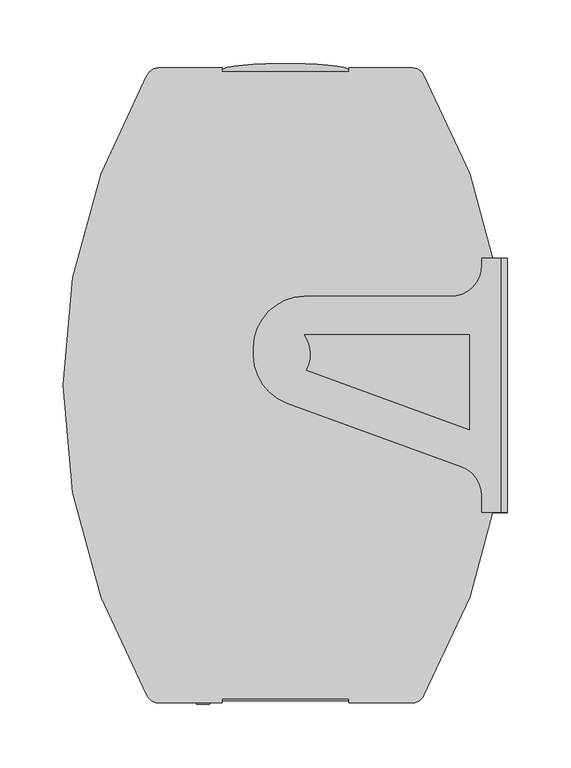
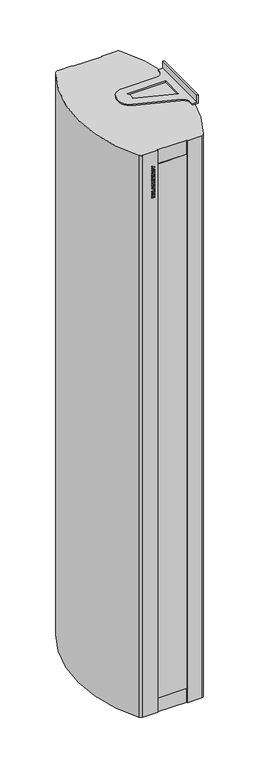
"""IFC4 building model written with IfcOpenShell, lengths in millimetres: proxy geometry, ADSK_Завеса дизайнерская_Электрическая : KVC-S20E18-31."""

import ifcopenshell
import ifcopenshell.guid

model = None  # the IFC model being written
_history = None  # IfcOwnerHistory: only IFC2X3 demands one
_inside = {}  # id of a spatial element -> (the spatial element, [elements in it])
_under = {}  # id of a project, library or spatial element -> (it, [spatial elements below it])
_declared = {}  # id of a project -> (the project, [libraries it declares])
_typed = {}  # id of a type object -> (the type object, [elements of that type])
_made_of = {}  # id of a material, layer set ... -> (it, [elements and type objects made of it])


def new_model(schema):
    """Start an empty IFC model of exactly this schema.

    Asked for "IFC4X3", IfcOpenShell would pick the latest addendum, in which some entities
    have other attributes; the version numbers below select the first issue.
    IFC2X3 requires an IfcOwnerHistory on every rooted entity: one is made here for all.
    """
    global model, _history
    if schema == "IFC4X3":
        model = ifcopenshell.file(schema_version=(4, 3, 0, 0))
    else:
        model = ifcopenshell.file(schema=schema)
    _inside.clear()
    _under.clear()
    _declared.clear()
    _typed.clear()
    _made_of.clear()
    _history = None
    if model.schema == "IFC2X3":
        org = make("IfcOrganization", Name="unknown")
        user = make(
            "IfcPersonAndOrganization",
            ThePerson=make("IfcPerson", FamilyName="unknown"),
            TheOrganization=org,
        )
        app = make(
            "IfcApplication",
            ApplicationDeveloper=org,
            Version="unknown",
            ApplicationFullName="unknown",
            ApplicationIdentifier="unknown",
        )
        _history = make(
            "IfcOwnerHistory",
            OwningUser=user,
            OwningApplication=app,
            ChangeAction="ADDED",
            CreationDate=0,
        )
    return model


def make(cls, **values):
    """One entity of the class cls with the attributes given. An attribute that is None is left unset."""
    return model.create_entity(
        cls, **{name: value for name, value in values.items() if value is not None}
    )


def rooted(cls, **values):
    """An entity with a GlobalId (a new one), such as an element, a storey or a relation."""
    return make(cls, GlobalId=ifcopenshell.guid.new(), OwnerHistory=_history, **values)


def si_unit(unit_type, name, prefix=None):
    """IfcSIUnit, for example si_unit("LENGTHUNIT", "METRE", prefix="MILLI")."""
    return make("IfcSIUnit", UnitType=unit_type, Prefix=prefix, Name=name)


def assignment(units):
    """IfcUnitAssignment: the units of a project."""
    return None if units is None else make("IfcUnitAssignment", Units=units)


def point(xyz):
    """IfcCartesianPoint."""
    return None if xyz is None else make("IfcCartesianPoint", Coordinates=xyz)


def direction(xyz):
    """IfcDirection."""
    return None if xyz is None else make("IfcDirection", DirectionRatios=xyz)


def frame(location, z_axis=None, x_axis=None):
    """IfcAxis2Placement3D, a coordinate frame: its origin and axes. An axis left out is left unset."""
    return make(
        "IfcAxis2Placement3D",
        Location=point(location),
        Axis=direction(z_axis),
        RefDirection=direction(x_axis),
    )


def frame_2d(location, x_axis=None):
    """IfcAxis2Placement2D, a coordinate frame in the plane: its origin and x axis."""
    return make(
        "IfcAxis2Placement2D", Location=point(location), RefDirection=direction(x_axis)
    )


def origin():
    """The frame at (0, 0, 0) with its axes left unset."""
    return frame((0.0, 0.0, 0.0))


def origin_with_axes():
    """The frame at (0, 0, 0) with the z axis (0, 0, 1) and the x axis (1, 0, 0) written out."""
    return frame((0.0, 0.0, 0.0), z_axis=(0.0, 0.0, 1.0), x_axis=(1.0, 0.0, 0.0))


def place(relative_to, where):
    """IfcLocalPlacement: puts the frame where relative to a parent placement (None: the world)."""
    return make(
        "IfcLocalPlacement", PlacementRelTo=relative_to, RelativePlacement=where
    )


def context(
    kind, dimensions, precision=None, world=None, true_north=None, identifier=None
):
    """IfcGeometricRepresentationContext, for example the 3D "Model" context."""
    return make(
        "IfcGeometricRepresentationContext",
        ContextIdentifier=identifier,
        ContextType=kind,
        CoordinateSpaceDimension=dimensions,
        Precision=precision,
        WorldCoordinateSystem=world,
        TrueNorth=true_north,
    )


def project(units=None, contexts=None):
    """IfcProject with its units and contexts."""
    return rooted(
        "IfcProject",
        Name="project",
        RepresentationContexts=contexts,
        UnitsInContext=assignment(units),
    )


def spatial(cls, under=None, at=None, **own):
    """A site, building, storey or space (cls), placed at a placement, below another one or the project."""
    s = rooted(cls, ObjectPlacement=at, **own)
    if under is not None:
        _under.setdefault(under.id(), (under, []))[1].append(s)
    return s


def polyline(points):
    """IfcPolyline through the points."""
    return make("IfcPolyline", Points=[point(p) for p in points])


def circle_curve(where, radius):
    """IfcCircle in the frame where."""
    return make("IfcCircle", Position=where, Radius=radius)


def ellipse_curve(where, semi_axis1, semi_axis2):
    """IfcEllipse in the frame where."""
    return make(
        "IfcEllipse", Position=where, SemiAxis1=semi_axis1, SemiAxis2=semi_axis2
    )


def trimmed(basis, trim1, trim2, sense, master):
    """IfcTrimmedCurve: the piece of a basis curve between two trims."""
    return make(
        "IfcTrimmedCurve",
        BasisCurve=basis,
        Trim1=trim1,
        Trim2=trim2,
        SenseAgreement=sense,
        MasterRepresentation=master,
    )


def segment(curve, same_sense, transition):
    """IfcCompositeCurveSegment."""
    return make(
        "IfcCompositeCurveSegment",
        Transition=transition,
        SameSense=same_sense,
        ParentCurve=curve,
    )


def composite_curve(segments, self_intersect=None):
    """IfcCompositeCurve: segments joined end to end."""
    return make("IfcCompositeCurve", Segments=segments, SelfIntersect=self_intersect)


def outline(outer, holes=None, kind="AREA"):
    """IfcArbitraryClosedProfileDef: a profile drawn as a closed curve; with holes, ...WithVoids."""
    if holes is None:
        return make("IfcArbitraryClosedProfileDef", ProfileType=kind, OuterCurve=outer)
    return make(
        "IfcArbitraryProfileDefWithVoids",
        ProfileType=kind,
        OuterCurve=outer,
        InnerCurves=holes,
    )


def extrude(swept, where, along, depth):
    """IfcExtrudedAreaSolid: the profile swept, set in the frame where, extruded along a direction by depth."""
    return make(
        "IfcExtrudedAreaSolid",
        SweptArea=swept,
        Position=where,
        ExtrudedDirection=direction(along),
        Depth=depth,
    )


def faces_of(points, faces, orient=None, outer=None):
    """IfcFace entities. A face is a list of loops; a loop is a list of indices into points, from 0.

    orient and outer hold one flag for each loop. By default every Orientation is true, the
    first loop of a face is its IfcFaceOuterBound and the others are IfcFaceBound.
    """
    made = []
    for i, loops in enumerate(faces):
        bounds = []
        for j, loop in enumerate(loops):
            is_outer = j == 0 if outer is None else outer[i][j]
            bounds.append(
                make(
                    "IfcFaceOuterBound" if is_outer else "IfcFaceBound",
                    Bound=make("IfcPolyLoop", Polygon=[points[k] for k in loop]),
                    Orientation=True if orient is None else orient[i][j],
                )
            )
        made.append(make("IfcFace", Bounds=bounds))
    return made


def faceted_brep(points, faces, orient=None, outer=None, voids=None):
    """IfcFacetedBrep: a solid bounded by flat faces; with voids (closed shells), ...WithVoids."""
    shared = [point(p) for p in points]
    hull = make("IfcClosedShell", CfsFaces=faces_of(shared, faces, orient, outer))
    if voids is None:
        return make("IfcFacetedBrep", Outer=hull)
    return make(
        "IfcFacetedBrepWithVoids",
        Outer=hull,
        Voids=[
            make(cls, CfsFaces=faces_of(shared, fs, o, b)) for cls, fs, o, b in voids
        ],
    )


def shape(context_of_items, identifier, shape_type, items):
    """IfcShapeRepresentation: the items that make up one representation, for example the "Body"."""
    return make(
        "IfcShapeRepresentation",
        ContextOfItems=context_of_items,
        RepresentationIdentifier=identifier,
        RepresentationType=shape_type,
        Items=items,
    )


def source(mapping_origin, context_of_items, identifier, shape_type, items):
    """IfcRepresentationMap: a shape defined once, which mapped items show again and again."""
    return make(
        "IfcRepresentationMap",
        MappingOrigin=mapping_origin,
        MappedRepresentation=shape(context_of_items, identifier, shape_type, items),
    )


def transform(
    local_origin,
    x_axis=None,
    y_axis=None,
    z_axis=None,
    scale=None,
    scale2=None,
    scale3=None,
    uniform=True,
):
    """IfcCartesianTransformationOperator3D, or its non-uniform kind. x_axis, y_axis, z_axis: its Axis1, 2, 3."""
    if uniform:
        return make(
            "IfcCartesianTransformationOperator3D",
            Axis1=direction(x_axis),
            Axis2=direction(y_axis),
            LocalOrigin=point(local_origin),
            Scale=scale,
            Axis3=direction(z_axis),
        )
    return make(
        "IfcCartesianTransformationOperator3DnonUniform",
        Axis1=direction(x_axis),
        Axis2=direction(y_axis),
        LocalOrigin=point(local_origin),
        Scale=scale,
        Axis3=direction(z_axis),
        Scale2=scale2,
        Scale3=scale3,
    )


def mapped(mapping_source, mapping_target):
    """IfcMappedItem: shows the shape of a source again, moved by a transform."""
    return make(
        "IfcMappedItem", MappingSource=mapping_source, MappingTarget=mapping_target
    )


def made_of(thing, what):
    """Note that an element or type object is made of a material, layer set ...; save() writes the relation."""
    if what is not None:
        _made_of.setdefault(what.id(), (what, []))[1].append(thing)
    return thing


def element(
    cls,
    number,
    at=None,
    inside=None,
    cuts=None,
    type_object=None,
    material=None,
    context=None,
    identifier="Body",
    shape_type=None,
    held_by="IfcProductDefinitionShape",
    body=None,
    shapes=None,
    **own,
):
    """One element of the class cls, such as IfcWall. Its Tag is "e" and its number.

    at: its placement. inside: the storey or other place that contains it. cuts: it is an
    opening in that element (IfcRelVoidsElement). A single representation is given by context,
    identifier, shape_type and body (its items); several are given by shapes. held_by: the class
    of the entity that holds the representations. save() writes the other relations.
    """
    e = rooted(cls, Tag="e%d" % number, ObjectPlacement=at, **own)
    if body is not None:
        shapes = [shape(context, identifier, shape_type, body)]
    if shapes is not None:
        e.Representation = make(held_by, Representations=shapes)
    if inside is not None:
        _inside.setdefault(inside.id(), (inside, []))[1].append(e)
    if cuts is not None:
        rooted(
            "IfcRelVoidsElement", RelatingBuildingElement=cuts, RelatedOpeningElement=e
        )
    if type_object is not None:
        _typed.setdefault(type_object.id(), (type_object, []))[1].append(e)
    return made_of(e, material)


def aggregate(whole, parts):
    """IfcRelAggregates: a whole, such as a stair, and the parts it consists of."""
    return rooted("IfcRelAggregates", RelatingObject=whole, RelatedObjects=parts)


def save(model, path):
    """Write the relations noted so far, then the file.

    IfcRelAggregates (storeys below a building ...), IfcRelContainedInSpatialStructure (elements
    in a storey), IfcRelDefinesByType, IfcRelAssociatesMaterial and IfcRelDeclares: one each for
    every whole, place, type object, material and project.
    """
    for whole, parts in _under.values():
        aggregate(whole, parts)
    for where, things in _inside.values():
        rooted(
            "IfcRelContainedInSpatialStructure",
            RelatedElements=things,
            RelatingStructure=where,
        )
    for kind, things in _typed.values():
        rooted("IfcRelDefinesByType", RelatedObjects=things, RelatingType=kind)
    for what, things in _made_of.values():
        rooted("IfcRelAssociatesMaterial", RelatedObjects=things, RelatingMaterial=what)
    for by, libraries in _declared.values():
        rooted("IfcRelDeclares", RelatingContext=by, RelatedDefinitions=libraries)
    model.write(path)


def plane_surface(at):
    """IfcPlane: the flat surface through the origin of the frame at, square to its z axis."""
    return make("IfcPlane", Position=at)


def cylinder_surface(at, radius):
    """IfcCylindricalSurface: all points at the distance radius from the z axis of the frame at."""
    return make("IfcCylindricalSurface", Position=at, Radius=radius)


def revolved_surface(curve, axis_point, axis_direction):
    """IfcSurfaceOfRevolution: the curve turned about the line through axis_point along axis_direction."""
    return make(
        "IfcSurfaceOfRevolution",
        SweptCurve=make("IfcArbitraryOpenProfileDef", ProfileType="CURVE", Curve=curve),
        AxisPosition=make("IfcAxis1Placement", Location=point(axis_point), Axis=direction(axis_direction)),
    )


def extruded_surface(curve, direction_of_extrusion, depth):
    """IfcSurfaceOfLinearExtrusion: the curve pushed along a direction by depth."""
    return make(
        "IfcSurfaceOfLinearExtrusion",
        SweptCurve=make("IfcArbitraryOpenProfileDef", ProfileType="CURVE", Curve=curve),
        ExtrudedDirection=direction(direction_of_extrusion),
        Depth=depth,
    )


def advanced_brep(points, edges, surfaces, faces):
    """IfcAdvancedBrep: a solid bounded by faces that lie on surfaces and meet in shared edges.

    An edge is (start, end): straight between two places in points (the first is 0);
    or (start, end, curve); or (start, end, curve, False) where it runs against its curve.
    A face is (place in surfaces, loops), or (place, loops, False) where it looks against
    its surface's normal. A loop lists edges by number (the first is 1), with a minus sign
    where the edge is run from its end to its start. The first loop is the outer one.
    """
    corners = [point(p) for p in points]
    vertices = [make("IfcVertexPoint", VertexGeometry=c) for c in corners]
    made = []
    for start, end, *more in edges:
        made.append(
            make(
                "IfcEdgeCurve",
                EdgeStart=vertices[start],
                EdgeEnd=vertices[end],
                EdgeGeometry=more[0] if more else make("IfcPolyline", Points=[corners[start], corners[end]]),
                SameSense=more[1] if len(more) > 1 else True,
            )
        )
    hull = []
    for where, loops, *sense in faces:
        bounds = []
        for j, loop in enumerate(loops):
            ring = [make("IfcOrientedEdge", EdgeElement=made[abs(k) - 1], Orientation=k > 0) for k in loop]
            bounds.append(
                make(
                    "IfcFaceOuterBound" if j == 0 else "IfcFaceBound",
                    Bound=make("IfcEdgeLoop", EdgeList=ring),
                    Orientation=True,
                )
            )
        hull.append(make("IfcAdvancedFace", Bounds=bounds, FaceSurface=surfaces[where], SameSense=sense[0] if sense else True))
    return make("IfcAdvancedBrep", Outer=make("IfcClosedShell", CfsFaces=hull))


def mechanical_equipment_6c2af282(model_context):
    return source(origin(), model_context, "Body", "SolidModel", [
        advanced_brep(
        [(155.0, 100.0, -5.0), (170.0, 100.0, -5.0), (170.0, -100.0, -5.0), (155.0, -100.0, -5.0), (155.0, -87.5051885, -5.0), (138.5505036, -64.0128729, -5.0), (1.3191943, -14.0647611, -5.0), (-25.0, 23.5229437, -5.0), (-25.0, 30.0, -5.0), (15.0, 70.0, -5.0), (130.0, 70.0, -5.0), (155.0, 95.0, -5.0), (145.0, -34.8821335, -5.0), (145.0, 40.0, -5.0), (15.0, 40.0, -5.0), (16.5981063, 11.8523338, -5.0), (155.0, 100.0, 0.0), (155.0, 95.0, 0.0), (130.0, 70.0, 0.0), (15.0, 70.0, 0.0), (-25.0, 30.0, 0.0), (-25.0, 23.5229437, 0.0), (1.3191943, -14.0647611, 0.0), (138.5505036, -64.0128729, 0.0), (155.0, -87.5051885, 0.0), (155.0, -100.0, 0.0), (175.0, -100.0, 0.0), (175.0, 100.0, 0.0), (145.0, -34.8821335, 0.0), (16.5981063, 11.8523338, 0.0), (15.0, 40.0, 0.0), (145.0, 40.0, 0.0), (175.0, 100.0, -30.0), (170.0, 100.0, -30.0), (170.0, -100.0, -30.0), (175.0, -100.0, -30.0)],
        [
            (0, 1),
            (1, 2),
            (2, 3),
            (3, 4),
            (4, 5, circle_curve(frame((130.0, -87.5051885, -5.0), z_axis=(0.0, 0.0, 1.0), x_axis=(1.0, 0.0, 0.0)), 25.0)),
            (5, 6),
            (6, 7, circle_curve(frame((15.0, 23.5229437, -5.0), z_axis=(0.0, 0.0, -1.0), x_axis=(1.0, 0.0, 0.0)), 40.0)),
            (7, 8),
            (8, 9, circle_curve(frame((15.0, 30.0, -5.0), z_axis=(0.0, 0.0, -1.0), x_axis=(1.0, 0.0, 0.0)), 40.0)),
            (9, 10),
            (10, 11, circle_curve(frame((130.0, 95.0, -5.0), z_axis=(0.0, 0.0, 1.0), x_axis=(1.0, 0.0, 0.0)), 25.0)),
            (11, 0),
            (12, 13),
            (13, 14),
            (14, 15, circle_curve(frame((-7.1937545, 24.6207318, -5.0), z_axis=(0.0, 0.0, -1.0), x_axis=(1.0, 0.0, 0.0)), 27.0015672)),
            (15, 12),
            (16, 17),
            (17, 18, circle_curve(frame((130.0, 95.0, 0.0), z_axis=(0.0, 0.0, -1.0), x_axis=(1.0, 0.0, 0.0)), 25.0)),
            (18, 19),
            (19, 20, circle_curve(frame((15.0, 30.0, 0.0), z_axis=(0.0, 0.0, 1.0), x_axis=(1.0, 0.0, 0.0)), 40.0)),
            (20, 21),
            (21, 22, circle_curve(frame((15.0, 23.5229437, 0.0), z_axis=(0.0, 0.0, 1.0), x_axis=(1.0, 0.0, 0.0)), 40.0)),
            (22, 23),
            (23, 24, circle_curve(frame((130.0, -87.5051885, 0.0), z_axis=(0.0, 0.0, -1.0), x_axis=(1.0, 0.0, 0.0)), 25.0)),
            (24, 25),
            (25, 26),
            (26, 27),
            (27, 16),
            (28, 29),
            (29, 30, circle_curve(frame((-7.1937545, 24.6207318, 0.0), z_axis=(0.0, 0.0, 1.0), x_axis=(1.0, 0.0, 0.0)), 27.0015672)),
            (30, 31),
            (31, 28),
            (27, 32),
            (32, 33),
            (33, 1),
            (0, 16),
            (7, 21),
            (20, 8),
            (2, 34),
            (34, 35),
            (35, 26),
            (25, 3),
            (35, 32),
            (11, 17),
            (10, 18),
            (9, 19),
            (6, 22),
            (5, 23),
            (4, 24),
            (15, 29),
            (28, 12),
            (14, 30),
            (13, 31),
            (34, 33),
        ],
        [
            plane_surface(frame((-25.0, 100.0, -5.0), z_axis=(0.0, 0.0, -1.0), x_axis=(-1.0, 0.0, 0.0))),
            plane_surface(frame((-25.0, 100.0, 0.0), z_axis=(0.0, 0.0, 1.0), x_axis=(1.0, 0.0, 0.0))),
            plane_surface(frame((175.0, 100.0, -5.0), z_axis=(0.0, 1.0, 0.0), x_axis=(0.0, 0.0, 1.0))),
            plane_surface(frame((-25.0, 30.0, -5.0), z_axis=(-1.0, 0.0, 0.0), x_axis=(0.0, 0.0, 1.0))),
            plane_surface(frame((155.0, -100.0, -5.0), z_axis=(0.0, -1.0, 0.0), x_axis=(0.0, 0.0, 1.0))),
            plane_surface(frame((175.0, -100.0, -5.0), z_axis=(1.0, 0.0, 0.0), x_axis=(0.0, 0.0, 1.0))),
            plane_surface(frame((155.0, 100.0, -5.0), z_axis=(-1.0, 0.0, 0.0), x_axis=(0.0, 0.0, 1.0))),
            revolved_surface(polyline([(155.0, 95.0, 0.0), (155.0, 95.0, -5.0)]), (130.0, 95.0, 0.0), (0.0, 0.0, 1.0)),
            plane_surface(frame((130.0, 70.0, -5.0), z_axis=(0.0, 1.0, 0.0), x_axis=(0.0, 0.0, 1.0))),
            cylinder_surface(frame((15.0, 30.0, 0.0), z_axis=(0.0, 0.0, -1.0), x_axis=(1.0, 0.0, 0.0)), 40.0),
            cylinder_surface(frame((15.0, 23.5229437, 0.0), z_axis=(0.0, 0.0, -1.0), x_axis=(1.0, 0.0, 0.0)), 40.0),
            plane_surface(frame((1.3191943, -14.0647611, -5.0), z_axis=(-0.34202014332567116, -0.9396926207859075, 0.0), x_axis=(0.0, 0.0, 1.0))),
            revolved_surface(polyline([(155.0, -87.5051885, 0.0), (155.0, -87.5051885, -5.0)]), (130.0, -87.5051885, 0.0), (0.0, 0.0, 1.0)),
            plane_surface(frame((155.0, -87.5051885, -5.0), z_axis=(-1.0, 0.0, 0.0), x_axis=(0.0, 0.0, 1.0))),
            plane_surface(frame((145.0, -34.8821335, -5.0), z_axis=(0.34202014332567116, 0.9396926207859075, 0.0), x_axis=(0.0, 0.0, 1.0))),
            cylinder_surface(frame((-7.1937545, 24.6207318, 0.0), z_axis=(0.0, 0.0, -1.0), x_axis=(1.0, 0.0, 0.0)), 27.0015672),
            plane_surface(frame((15.0, 40.0, -5.0), z_axis=(0.0, -1.0, 0.0), x_axis=(0.0, 0.0, 1.0))),
            plane_surface(frame((145.0, 40.0, -5.0), z_axis=(-1.0, 0.0, 0.0), x_axis=(0.0, 0.0, 1.0))),
            plane_surface(frame((170.0, 126.8049179, -30.0), z_axis=(0.0, 0.0, -1.0), x_axis=(0.0, -1.0, 0.0))),
            plane_surface(frame((170.0, 100.0, -30.0), z_axis=(-1.0, 0.0, 0.0), x_axis=(0.0, 0.0, 1.0))),
        ],
        [
            (0, [[1, 2, 3, 4, 5, 6, 7, 8, 9, 10, 11, 12], [13, 14, 15, 16]]),
            (1, [[17, 18, 19, 20, 21, 22, 23, 24, 25, 26, 27, 28], [29, 30, 31, 32]]),
            (2, [[-28, 33, 34, 35, -1, 36]]),
            (3, [[37, -21, 38, -8]]),
            (4, [[-3, 39, 40, 41, -26, 42]]),
            (5, [[43, -33, -27, -41]]),
            (6, [[44, -17, -36, -12]]),
            (7, [[45, -18, -44, -11]]),
            (8, [[46, -19, -45, -10]]),
            (9, [[-38, -20, -46, -9]]),
            (10, [[47, -22, -37, -7]]),
            (11, [[48, -23, -47, -6]]),
            (12, [[49, -24, -48, -5]]),
            (13, [[-42, -25, -49, -4]]),
            (14, [[50, -29, 51, -16]]),
            (15, [[52, -30, -50, -15]]),
            (16, [[53, -31, -52, -14]]),
            (17, [[-51, -32, -53, -13]]),
            (18, [[-34, -43, -40, 54]]),
            (19, [[-39, -2, -35, -54]]),
        ],
    ),
        advanced_brep(
        [(155.0, 100.0, 2019.0), (155.0, 95.0, 2019.0), (130.0, 70.0, 2019.0), (15.0, 70.0, 2019.0), (-25.0, 30.0, 2019.0), (-25.0, 23.5229437, 2019.0), (1.3191943, -14.0647611, 2019.0), (138.5505036, -64.0128729, 2019.0), (155.0, -87.5051885, 2019.0), (155.0, -100.0, 2019.0), (170.0, -100.0, 2019.0), (170.0, 100.0, 2019.0), (145.0, -34.8821335, 2019.0), (16.5981063, 11.8523338, 2019.0), (15.0, 40.0, 2019.0), (145.0, 40.0, 2019.0), (155.0, 100.0, 2014.0), (175.0, 100.0, 2014.0), (175.0, -100.0, 2014.0), (155.0, -100.0, 2014.0), (155.0, -87.5051885, 2014.0), (138.5505036, -64.0128729, 2014.0), (1.3191943, -14.0647611, 2014.0), (-25.0, 23.5229437, 2014.0), (-25.0, 30.0, 2014.0), (15.0, 70.0, 2014.0), (130.0, 70.0, 2014.0), (155.0, 95.0, 2014.0), (145.0, -34.8821335, 2014.0), (145.0, 40.0, 2014.0), (15.0, 40.0, 2014.0), (16.5981063, 11.8523338, 2014.0), (170.0, 100.0, 2044.0), (175.0, 100.0, 2044.0), (175.0, -100.0, 2044.0), (170.0, -100.0, 2044.0)],
        [
            (0, 1),
            (1, 2, circle_curve(frame((130.0, 95.0, 2019.0), z_axis=(0.0, 0.0, -1.0), x_axis=(1.0, 0.0, 0.0)), 25.0)),
            (2, 3),
            (3, 4, circle_curve(frame((15.0, 30.0, 2019.0), z_axis=(0.0, 0.0, 1.0), x_axis=(1.0, 0.0, 0.0)), 40.0)),
            (4, 5),
            (5, 6, circle_curve(frame((15.0, 23.5229437, 2019.0), z_axis=(0.0, 0.0, 1.0), x_axis=(1.0, 0.0, 0.0)), 40.0)),
            (6, 7),
            (7, 8, circle_curve(frame((130.0, -87.5051885, 2019.0), z_axis=(0.0, 0.0, -1.0), x_axis=(1.0, 0.0, 0.0)), 25.0)),
            (8, 9),
            (9, 10),
            (10, 11),
            (11, 0),
            (12, 13),
            (13, 14, circle_curve(frame((-7.1937545, 24.6207318, 2019.0), z_axis=(0.0, 0.0, 1.0), x_axis=(1.0, 0.0, 0.0)), 27.0015672)),
            (14, 15),
            (15, 12),
            (16, 17),
            (17, 18),
            (18, 19),
            (19, 20),
            (20, 21, circle_curve(frame((130.0, -87.5051885, 2014.0), z_axis=(0.0, 0.0, 1.0), x_axis=(1.0, 0.0, 0.0)), 25.0)),
            (21, 22),
            (22, 23, circle_curve(frame((15.0, 23.5229437, 2014.0), z_axis=(0.0, 0.0, -1.0), x_axis=(1.0, 0.0, 0.0)), 40.0)),
            (23, 24),
            (24, 25, circle_curve(frame((15.0, 30.0, 2014.0), z_axis=(0.0, 0.0, -1.0), x_axis=(1.0, 0.0, 0.0)), 40.0)),
            (25, 26),
            (26, 27, circle_curve(frame((130.0, 95.0, 2014.0), z_axis=(0.0, 0.0, 1.0), x_axis=(1.0, 0.0, 0.0)), 25.0)),
            (27, 16),
            (28, 29),
            (29, 30),
            (30, 31, circle_curve(frame((-7.1937545, 24.6207318, 2014.0), z_axis=(0.0, 0.0, -1.0), x_axis=(1.0, 0.0, 0.0)), 27.0015672)),
            (31, 28),
            (16, 0),
            (11, 32),
            (32, 33),
            (33, 17),
            (4, 24),
            (23, 5),
            (9, 19),
            (18, 34),
            (34, 35),
            (35, 10),
            (33, 34),
            (27, 1),
            (26, 2),
            (25, 3),
            (22, 6),
            (21, 7),
            (20, 8),
            (12, 28),
            (31, 13),
            (30, 14),
            (29, 15),
            (32, 35),
        ],
        [
            plane_surface(frame((-25.0, 100.0, 2019.0), z_axis=(0.0, 0.0, 1.0), x_axis=(-1.0, 0.0, 0.0))),
            plane_surface(frame((-25.0, 100.0, 2014.0), z_axis=(0.0, 0.0, -1.0), x_axis=(1.0, 0.0, 0.0))),
            plane_surface(frame((175.0, 100.0, 2019.0), z_axis=(0.0, 1.0, 0.0), x_axis=(0.0, 0.0, -1.0))),
            plane_surface(frame((-25.0, 30.0, 2019.0), z_axis=(-1.0, 0.0, 0.0), x_axis=(0.0, 0.0, -1.0))),
            plane_surface(frame((155.0, -100.0, 2019.0), z_axis=(0.0, -1.0, 0.0), x_axis=(0.0, 0.0, -1.0))),
            plane_surface(frame((175.0, -100.0, 2019.0), z_axis=(1.0, 0.0, 0.0), x_axis=(0.0, 0.0, -1.0))),
            plane_surface(frame((155.0, 100.0, 2019.0), z_axis=(-1.0, 0.0, 0.0), x_axis=(0.0, 0.0, -1.0))),
            revolved_surface(polyline([(155.0, 95.0, 2014.0), (155.0, 95.0, 2019.0)]), (130.0, 95.0, 2014.0), (0.0, 0.0, -1.0)),
            plane_surface(frame((130.0, 70.0, 2019.0), z_axis=(0.0, 1.0, 0.0), x_axis=(0.0, 0.0, -1.0))),
            cylinder_surface(frame((15.0, 30.0, 2014.0), z_axis=(0.0, 0.0, 1.0), x_axis=(1.0, 0.0, 0.0)), 40.0),
            cylinder_surface(frame((15.0, 23.5229437, 2014.0), z_axis=(0.0, 0.0, 1.0), x_axis=(1.0, 0.0, 0.0)), 40.0),
            plane_surface(frame((1.3191943, -14.0647611, 2019.0), z_axis=(-0.3420201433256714, -0.9396926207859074, 0.0), x_axis=(0.0, 0.0, -1.0))),
            revolved_surface(polyline([(155.0, -87.5051885, 2014.0), (155.0, -87.5051885, 2019.0)]), (130.0, -87.5051885, 2014.0), (0.0, 0.0, -1.0)),
            plane_surface(frame((155.0, -87.5051885, 2019.0), z_axis=(-1.0, 0.0, 0.0), x_axis=(0.0, 0.0, -1.0))),
            plane_surface(frame((145.0, -34.8821335, 2019.0), z_axis=(0.3420201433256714, 0.9396926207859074, 0.0), x_axis=(0.0, 0.0, -1.0))),
            cylinder_surface(frame((-7.1937545, 24.6207318, 2014.0), z_axis=(0.0, 0.0, 1.0), x_axis=(1.0, 0.0, 0.0)), 27.0015672),
            plane_surface(frame((15.0, 40.0, 2019.0), z_axis=(0.0, -1.0, 0.0), x_axis=(0.0, 0.0, -1.0))),
            plane_surface(frame((145.0, 40.0, 2019.0), z_axis=(-1.0, 0.0, 0.0), x_axis=(0.0, 0.0, -1.0))),
            plane_surface(frame((170.0, 126.8049179, 2044.0), z_axis=(0.0, 0.0, 1.0), x_axis=(0.0, -1.0, 0.0))),
            plane_surface(frame((170.0, 100.0, 2044.0), z_axis=(-1.0, 0.0, 0.0), x_axis=(0.0, 0.0, -1.0))),
        ],
        [
            (0, [[1, 2, 3, 4, 5, 6, 7, 8, 9, 10, 11, 12], [13, 14, 15, 16]]),
            (1, [[17, 18, 19, 20, 21, 22, 23, 24, 25, 26, 27, 28], [29, 30, 31, 32]]),
            (2, [[33, -12, 34, 35, 36, -17]]),
            (3, [[-5, 37, -24, 38]]),
            (4, [[39, -19, 40, 41, 42, -10]]),
            (5, [[-40, -18, -36, 43]]),
            (6, [[-1, -33, -28, 44]]),
            (7, [[-2, -44, -27, 45]]),
            (8, [[-3, -45, -26, 46]]),
            (9, [[-4, -46, -25, -37]]),
            (10, [[-6, -38, -23, 47]]),
            (11, [[-7, -47, -22, 48]]),
            (12, [[-8, -48, -21, 49]]),
            (13, [[-9, -49, -20, -39]]),
            (14, [[-13, 50, -32, 51]]),
            (15, [[-14, -51, -31, 52]]),
            (16, [[-15, -52, -30, 53]]),
            (17, [[-16, -53, -29, -50]]),
            (18, [[54, -41, -43, -35]]),
            (19, [[-54, -34, -11, -42]]),
        ],
    ),
        extrude(outline(polyline([(1850.0784314, -70.0), (1850.0784314, -60.0), (1853.2156863, -60.0), (1853.2156863, -61.7647059), (1854.9865196, -63.7745098), (1856.8186275, -60.0), (1860.6666667, -60.0), (1857.192402, -66.2775735), (1860.4705882, -70.0), (1856.1997549, -70.0), (1853.2156863, -66.2224265), (1853.2156863, -70.0), (1850.0784314, -70.0)])), frame((0.0, -251.0, 0.0), z_axis=(0.0, 1.0, 0.0), x_axis=(0.0, 0.0, 1.0)), (0.0, 0.0, 1.0), 1.0),
        extrude(outline(polyline([(1867.6642157, -61.5686275), (1868.1176471, -60.0), (1871.4509804, -60.0), (1868.0778186, -70.0), (1864.0398284, -70.0), (1860.6666667, -60.0), (1864.0, -60.0), (1864.4319853, -61.5686275), (1867.6642157, -61.5686275)]), holes=[polyline([(1867.0698529, -63.9215686), (1865.0814951, -63.9215686), (1866.0588235, -67.4540441), (1867.0698529, -63.9215686)])]), frame((0.0, -251.0, 0.0), z_axis=(0.0, 1.0, 0.0), x_axis=(0.0, 0.0, 1.0)), (0.0, 0.0, 1.0), 1.0),
        extrude(outline(polyline([(1872.4313725, -70.0), (1872.4313725, -60.0), (1880.2745098, -60.0), (1880.2745098, -62.3529412), (1875.5686275, -62.3529412), (1875.5686275, -70.0), (1872.4313725, -70.0)])), frame((0.0, -251.0, 0.0), z_axis=(0.0, 1.0, 0.0), x_axis=(0.0, 0.0, 1.0)), (0.0, 0.0, 1.0), 1.0),
        extrude(outline(polyline([(1887.6642157, -61.5686275), (1888.1176471, -60.0), (1891.4509804, -60.0), (1888.0778186, -70.0), (1884.0398284, -70.0), (1880.6666667, -60.0), (1884.0, -60.0), (1884.4319853, -61.5686275), (1887.6642157, -61.5686275)]), holes=[polyline([(1887.0698529, -63.9215686), (1885.0814951, -63.9215686), (1886.0588235, -67.4540441), (1887.0698529, -63.9215686)])]), frame((0.0, -251.0, 0.0), z_axis=(0.0, 1.0, 0.0), x_axis=(0.0, 0.0, 1.0)), (0.0, 0.0, 1.0), 1.0),
        extrude(outline(polyline([(1891.8431373, -63.3394608), (1892.9491422, -60.8026961), (1896.4601716, -59.8039216), (1898.8560049, -60.2297794), (1900.3342525, -61.4813113), (1900.8627451, -63.28125), (1900.4675245, -64.7870711), (1899.2022059, -65.9129902), (1896.3223039, -66.8106618), (1896.1905637, -68.4313725), (1896.9641544, -68.1050858), (1897.3333333, -67.0588235), (1900.4705882, -67.2395833), (1899.2925858, -69.4883578), (1896.4172794, -70.1960784), (1893.9969363, -69.8039216), (1892.6749387, -68.7285539), (1892.2352941, -67.276348), (1893.1023284, -65.3492647), (1895.9761029, -64.1237745), (1897.7254902, -62.8186275), (1897.4114583, -62.0818015), (1896.5183824, -61.7647059), (1895.3204657, -62.3958333), (1894.9803922, -63.5294118), (1891.8431373, -63.3394608)])), frame((0.0, -251.0, 0.0), z_axis=(0.0, 1.0, 0.0), x_axis=(0.0, 0.0, 1.0)), (0.0, 0.0, 1.0), 1.0),
        extrude(outline(polyline([(1902.4313725, -70.0), (1902.4313725, -60.0), (1905.5686275, -60.0), (1905.5686275, -64.1176471), (1908.9019608, -64.1176471), (1908.9019608, -60.0), (1912.0392157, -60.0), (1912.0392157, -70.0), (1908.9019608, -70.0), (1908.9019608, -66.4705882), (1905.5686275, -66.4705882), (1905.5686275, -70.0), (1902.4313725, -70.0)])), frame((0.0, -251.0, 0.0), z_axis=(0.0, 1.0, 0.0), x_axis=(0.0, 0.0, 1.0)), (0.0, 0.0, 1.0), 1.0),
        extrude(outline(polyline([(1914.0, -70.0), (1914.0, -60.0), (1916.9411765, -60.0), (1916.9411765, -65.4901961), (1920.6666667, -60.0), (1923.6078431, -60.0), (1923.6078431, -70.0), (1920.6666667, -70.0), (1920.6666667, -64.4730392), (1916.9197304, -70.0), (1914.0, -70.0)])), frame((0.0, -251.0, 0.0), z_axis=(0.0, 1.0, 0.0), x_axis=(0.0, 0.0, 1.0)), (0.0, 0.0, 1.0), 1.0),
        extrude(outline(polyline([(-60.0, -251.0), (-70.0, -251.0), (-70.0, -250.0), (-60.0, -250.0), (-60.0, -251.0)])), frame((0.0, 0.0, 1925.7647059), z_axis=(0.0, 0.0, 1.0), x_axis=(1.0, 0.0, 0.0)), (0.0, 0.0, 1.0), 3.1372549),
        extrude(outline(polyline([(1931.0588235, -70.0), (1931.0588235, -60.0), (1934.1960784, -60.0), (1934.1960784, -61.7647059), (1935.9669118, -63.7745098), (1937.7990196, -60.0), (1941.6470588, -60.0), (1938.1727941, -66.2775735), (1941.4509804, -70.0), (1937.1801471, -70.0), (1934.1960784, -66.2224265), (1934.1960784, -70.0), (1931.0588235, -70.0)])), frame((0.0, -251.0, 0.0), z_axis=(0.0, 1.0, 0.0), x_axis=(0.0, 0.0, 1.0)), (0.0, 0.0, 1.0), 1.0),
        extrude(outline(polyline([(1942.2352941, -64.9938725), (1942.9261642, -62.0603554), (1944.7291667, -60.346201), (1947.5386029, -59.8039216), (1950.3250613, -60.4304534), (1952.036152, -62.1859681), (1952.627451, -65.0765931), (1951.2732843, -68.8495711), (1947.4129902, -70.1960784), (1943.6032475, -68.8250613), (1942.2352941, -64.9938725)]), holes=[polyline([(1945.372549, -64.9938725), (1945.9301471, -67.1813725), (1947.4068627, -67.8431373), (1948.9295343, -67.1920956), (1949.4901961, -65.1286765), (1948.9525123, -62.8048407), (1947.4344363, -62.1568627), (1945.9270833, -62.8186275), (1945.372549, -64.9938725)])]), frame((0.0, -251.0, 0.0), z_axis=(0.0, 1.0, 0.0), x_axis=(0.0, 0.0, 1.0)), (0.0, 0.0, 1.0), 1.0),
        extrude(outline(polyline([(1953.4117647, -70.0), (1957.1280637, -60.0), (1960.4583333, -60.0), (1964.1960784, -70.0), (1960.8627451, -70.0), (1958.8039216, -62.8033088), (1956.7420343, -70.0), (1953.4117647, -70.0)])), frame((0.0, -251.0, 0.0), z_axis=(0.0, 1.0, 0.0), x_axis=(0.0, 0.0, 1.0)), (0.0, 0.0, 1.0), 1.0),
        faceted_brep([(50.0, -247.0, 1964.0), (-50.0, -247.0, 1964.0), (-50.0, -248.5, 1964.0), (50.0, -248.5, 1964.0), (50.0, -247.0, 50.0), (50.0, -248.5, 50.0), (-50.0, -248.5, 50.0), (-50.0, -247.0, 50.0)], [[[0, 1, 2, 3]], [[4, 5, 6, 7]], [[1, 0, 4, 7]], [[2, 1, 7, 6]], [[3, 2, 6, 5]], [[0, 3, 5, 4]]]),
        advanced_brep(
        [(-50.0, 248.5, 1964.0), (-50.0, 247.0, 1964.0), (50.0, 247.0, 1964.0), (50.0, 248.5, 1964.0), (-50.0, 248.5, 50.0), (50.0, 248.5, 50.0), (50.0, 247.0, 50.0), (-50.0, 247.0, 50.0)],
        [
            (0, 1),
            (1, 2),
            (2, 3),
            (3, 0, ellipse_curve(frame((0.0, 248.5, 1964.0), z_axis=(0.0, 0.0, 1.0), x_axis=(-1.0, 0.0, 0.0)), 50.0, 5.0)),
            (4, 5, ellipse_curve(frame((0.0, 248.5, 50.0), z_axis=(0.0, 0.0, -1.0), x_axis=(-1.0, 0.0, 0.0)), 50.0, 5.0)),
            (5, 6),
            (6, 7),
            (7, 4),
            (0, 4),
            (7, 1),
            (6, 2),
            (5, 3),
        ],
        [
            plane_surface(frame((-50.0, -247.0, 1964.0), z_axis=(0.0, 0.0, 1.0), x_axis=(-1.0, 0.0, 0.0))),
            plane_surface(frame((-50.0, -247.0, 50.0), z_axis=(0.0, 0.0, -1.0), x_axis=(1.0, 0.0, 0.0))),
            plane_surface(frame((-50.0, 248.5, 1964.0), z_axis=(-1.0, 0.0, 0.0), x_axis=(0.0, 0.0, -1.0))),
            plane_surface(frame((-50.0, 247.0, 1964.0), z_axis=(0.0, -1.0, 0.0), x_axis=(0.0, 0.0, -1.0))),
            plane_surface(frame((50.0, 247.0, 1964.0), z_axis=(1.0, 0.0, 0.0), x_axis=(0.0, 0.0, -1.0))),
            extruded_surface(trimmed(ellipse_curve(frame((0.0, 248.5, -1914.0), z_axis=(0.0, 0.0, 1.0), x_axis=(-1.0, 0.0, 0.0)), 50.0, 5.0), [point((50.0, 248.5, -1914.0))], [point((-50.0, 248.5, -1914.0))], True, "CARTESIAN"), (0.0, 0.0, 1914.0), 1914.0),
        ],
        [
            (0, [[1, 2, 3, 4]]),
            (1, [[5, 6, 7, 8]]),
            (2, [[-1, 9, -8, 10]]),
            (3, [[-2, -10, -7, 11]]),
            (4, [[-3, -11, -6, 12]]),
            (5, [[-4, -12, -5, -9]]),
        ],
    ),
        extrude(outline(composite_curve([segment(polyline([(-50.0, 250.0), (-50.0, 247.0), (50.0, 247.0), (50.0, 250.0), (100.0, 250.0)]), True, "CONTINUOUS"), segment(trimmed(circle_curve(frame_2d((100.0, 240.0)), 10.0), [point((100.0, 250.0))], [point((109.287324, 243.7075077))], False, "CARTESIAN"), True, "CONTINUOUS"), segment(trimmed(circle_curve(frame_2d((-309.7733265, 0.0)), 484.7733265), [point((109.287324, 243.7075077))], [point((109.287324, -243.7075077))], False, "CARTESIAN"), True, "CONTINUOUS"), segment(trimmed(circle_curve(frame_2d((100.0, -240.0)), 10.0), [point((109.287324, -243.7075077))], [point((100.0, -250.0))], False, "CARTESIAN"), True, "CONTINUOUS"), segment(polyline([(100.0, -250.0), (50.0, -250.0), (50.0, -247.0), (-50.0, -247.0), (-50.0, -250.0), (-100.0, -250.0)]), True, "CONTINUOUS"), segment(trimmed(circle_curve(frame_2d((-100.0, -240.0)), 10.0), [point((-100.0, -250.0))], [point((-109.287324, -243.7075077))], False, "CARTESIAN"), True, "CONTINUOUS"), segment(trimmed(circle_curve(frame_2d((309.7733265, 0.0)), 484.7733265), [point((-109.287324, -243.7075077))], [point((-109.287324, 243.7075077))], False, "CARTESIAN"), True, "CONTINUOUS"), segment(trimmed(circle_curve(frame_2d((-100.0, 240.0)), 10.0), [point((-109.287324, 243.7075077))], [point((-100.0, 250.0))], False, "CARTESIAN"), True, "CONTINUOUS"), segment(polyline([(-100.0, 250.0), (-50.0, 250.0)]), True, "CONTINUOUS")], self_intersect=False)), origin_with_axes(), (0.0, 0.0, 1.0), 2014.0),
    ])


if __name__ == "__main__":
    model = new_model("IFC4")
    model_context = context("Model", 3, world=origin())
    ifc_project = project(units=[si_unit("LENGTHUNIT", "METRE", prefix="MILLI")], contexts=[model_context])
    site = spatial("IfcSite", under=ifc_project)
    building = spatial("IfcBuilding", under=site)
    placement = place(None, origin())
    mechanical_equipment_shape = mechanical_equipment_6c2af282(model_context)
    element("IfcBuildingElementProxy", 1, Name="ADSK_Завеса дизайнерская_Электрическая : KVC-S20E18-31", ObjectType="ADSK_Завеса дизайнерская_Электрическая : KVC-S20E18-31", at=placement, inside=building, context=model_context, shape_type="MappedRepresentation", body=[
        mapped(mechanical_equipment_shape, transform((0.0, 0.0, 0.0), x_axis=(1.0, 0.0, 0.0), y_axis=(0.0, 1.0, 0.0), z_axis=(0.0, 0.0, 1.0))),
    ])
    save(model, "model.ifc")
